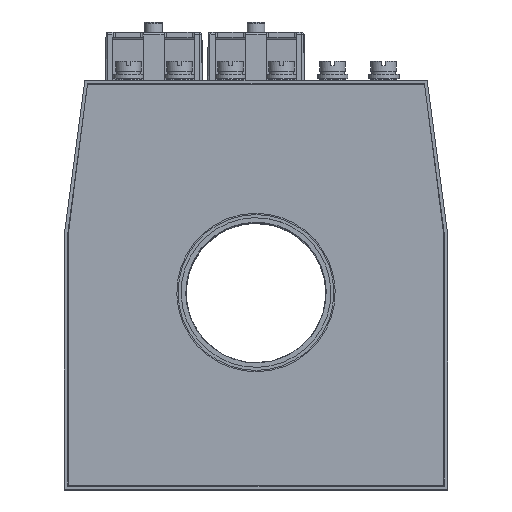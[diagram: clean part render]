
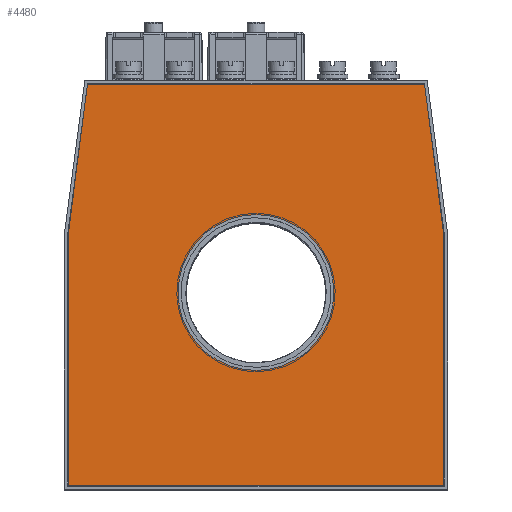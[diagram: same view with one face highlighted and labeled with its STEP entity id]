
A CAD part, top view. The second image highlights one B-rep face of the part: STEP entity #4480.
In plain terms, the highlighted planar face has unit normal (0, 0, 1).
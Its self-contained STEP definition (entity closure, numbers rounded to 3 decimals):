
#4480=ADVANCED_FACE('',(#7941,#7943),#7945,.T.);
#7941=FACE_BOUND('',#7942,.T.);
#7942=EDGE_LOOP('',(#9366,#9367,#9368,#9369,#9370,#9371));
#7943=FACE_BOUND('',#7944,.T.);
#7944=EDGE_LOOP('',(#9372));
#7945=PLANE('',#7946);
#7946=AXIS2_PLACEMENT_3D('',#7947,#7948,#7949);
#7947=CARTESIAN_POINT('',(0.,0.,5.));
#7948=DIRECTION('',(0.,0.,1.));
#7949=DIRECTION('',(1.,0.,0.));
#9366=ORIENTED_EDGE('',*,*,#10085,.T.);
#9367=ORIENTED_EDGE('',*,*,#10086,.T.);
#9368=ORIENTED_EDGE('',*,*,#10087,.T.);
#9369=ORIENTED_EDGE('',*,*,#10088,.T.);
#9370=ORIENTED_EDGE('',*,*,#10089,.T.);
#9371=ORIENTED_EDGE('',*,*,#10090,.T.);
#9372=ORIENTED_EDGE('',*,*,#10091,.T.);
#10085=EDGE_CURVE('',#11269,#11270,#11271,.T.);
#10086=EDGE_CURVE('',#11270,#11272,#11273,.T.);
#10087=EDGE_CURVE('',#11272,#11274,#11275,.T.);
#10088=EDGE_CURVE('',#11274,#11276,#11277,.T.);
#10089=EDGE_CURVE('',#11276,#11278,#11279,.T.);
#10090=EDGE_CURVE('',#11278,#11269,#11280,.T.);
#10091=EDGE_CURVE('',#11281,#11281,#11282,.F.);
#11269=VERTEX_POINT('',#14306);
#11270=VERTEX_POINT('',#14307);
#11271=LINE('',#14308,#14309);
#11272=VERTEX_POINT('',#14311);
#11273=LINE('',#14312,#14313);
#11274=VERTEX_POINT('',#14315);
#11275=LINE('',#14316,#14317);
#11276=VERTEX_POINT('',#14319);
#11277=LINE('',#14320,#14321);
#11278=VERTEX_POINT('',#14323);
#11279=LINE('',#14324,#14325);
#11280=LINE('',#14327,#14328);
#11281=VERTEX_POINT('',#14330);
#11282=CIRCLE('',#14331,30.5);
#14306=CARTESIAN_POINT('',(-73.5,19.815,5.));
#14307=CARTESIAN_POINT('',(-73.5,-78.5,5.));
#14308=CARTESIAN_POINT('',(-73.5,19.815,5.));
#14309=VECTOR('',#14310,1.);
#14310=DIRECTION('',(0.,-1.,0.));
#14311=CARTESIAN_POINT('',(73.5,-78.5,5.));
#14312=CARTESIAN_POINT('',(-73.5,-78.5,5.));
#14313=VECTOR('',#14314,1.);
#14314=DIRECTION('',(1.,0.,0.));
#14315=CARTESIAN_POINT('',(73.5,19.815,5.));
#14316=CARTESIAN_POINT('',(73.5,-78.5,5.));
#14317=VECTOR('',#14318,1.);
#14318=DIRECTION('',(0.,1.,0.));
#14319=CARTESIAN_POINT('',(66.,78.5,5.));
#14320=CARTESIAN_POINT('',(73.5,19.815,5.));
#14321=VECTOR('',#14322,1.);
#14322=DIRECTION('',(-0.127,0.992,0.));
#14323=CARTESIAN_POINT('',(-66.,78.5,5.));
#14324=CARTESIAN_POINT('',(66.,78.5,5.));
#14325=VECTOR('',#14326,1.);
#14326=DIRECTION('',(-1.,0.,0.));
#14327=CARTESIAN_POINT('',(-66.,78.5,5.));
#14328=VECTOR('',#14329,1.);
#14329=DIRECTION('',(-0.127,-0.992,0.));
#14330=CARTESIAN_POINT('',(30.5,-3.,5.));
#14331=AXIS2_PLACEMENT_3D('',#14332,#14333,#14334);
#14332=CARTESIAN_POINT('',(0.,-3.,5.));
#14333=DIRECTION('',(0.,0.,1.));
#14334=DIRECTION('',(1.,0.,0.));
